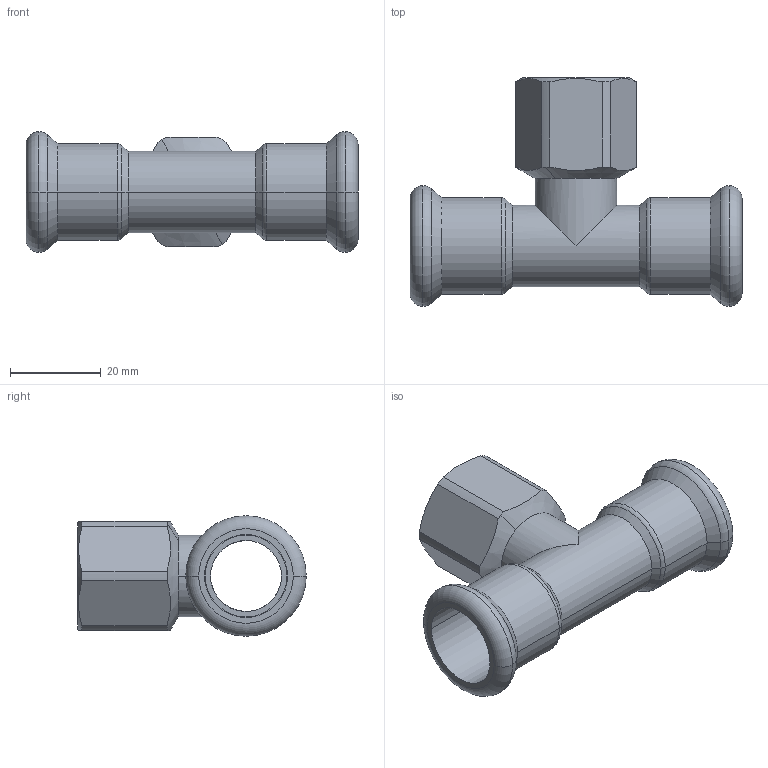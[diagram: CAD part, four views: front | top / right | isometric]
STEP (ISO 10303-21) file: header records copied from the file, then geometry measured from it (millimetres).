
FILE_DESCRIPTION(('CoCreate Modeling STEP Export'),'2;1');
FILE_NAME('C1418 18xRp1-2x18.stp','2014-11-12T12:59:00',(''),(''),'CoCreate Modeling STEP processor for AP214 (Solid Model)','CoCreate Modeling 17.00A 17-Jun-2010 (C) Parametric Technology GmbH','');
FILE_SCHEMA(('AUTOMOTIVE_DESIGN { 1 0 10303 214 1 1 1 1 }'));
Length unit declared in the file: millimetre
Products named in the file (2): C1418_18xRp1-2x18
Assembly tree (1 placements, depth 2):
  C1418_18xRp1-2x18
    C1418_18xRp1-2x18
Bounding box: 73 x 50.25 x 26.5 mm (x, y, z)
Volume: 12313.5 mm3; surface area: 13432.4 mm2
Topology: 1 solids, 1 shells, 66 faces, 159 edges, 99 vertices
Faces by surface type: cylinder 28, plane 14, cone 12, torus 12
Entity records: 2489 total; most frequent: CARTESIAN_POINT 1090, ORIENTED_EDGE 318, DIRECTION 246, EDGE_CURVE 159, AXIS2_PLACEMENT_3D 100, VERTEX_POINT 99, EDGE_LOOP 74, FACE_OUTER_BOUND 66
